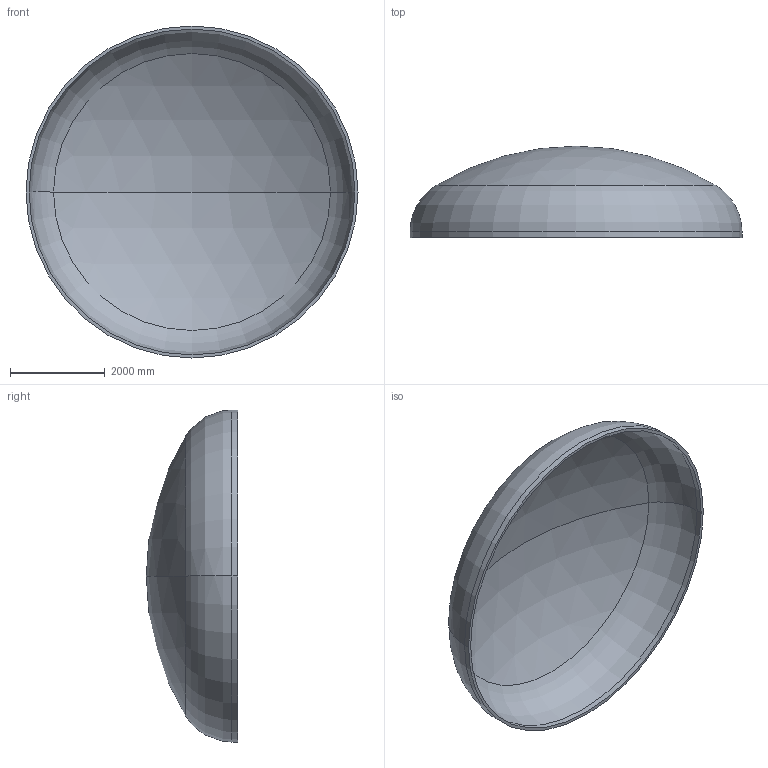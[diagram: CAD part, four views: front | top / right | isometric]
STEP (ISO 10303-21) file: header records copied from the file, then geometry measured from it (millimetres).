
FILE_DESCRIPTION (( 'STEP AP203' ), '1' );
FILE_NAME ('DIN 28013 Korbbogenform_-_Boden DIN 28013 - 7000 x 120 - I - s=64.step', '2016-07-04T10:48:35', ( '' ), ( '' ), 'SwSTEP 2.0', 'SolidWorks 2013', '' );
FILE_SCHEMA (( 'CONFIG_CONTROL_DESIGN' ));
Length unit declared in the file: millimetre
Products named in the file (1): DIN 28013 Korbbogenform_-_Boden DIN 28013 - 7000 x 120 - I - s=64
Bounding box: 7000 x 1926.58 x 7000 mm (x, y, z)
Volume: 3538813198.7 mm3; surface area: 111991014 mm2
Topology: 1 solids, 1 shells, 13 faces, 24 edges, 14 vertices
Faces by surface type: torus 4, cylinder 4, sphere 4, plane 1
Entity records: 407 total; most frequent: DIRECTION 72, CARTESIAN_POINT 52, ORIENTED_EDGE 48, AXIS2_PLACEMENT_3D 34, EDGE_CURVE 24, CIRCLE 20, EDGE_LOOP 14, VERTEX_POINT 14
